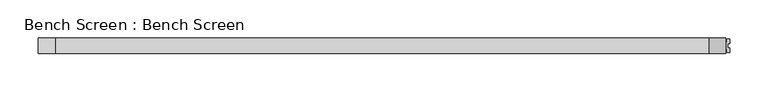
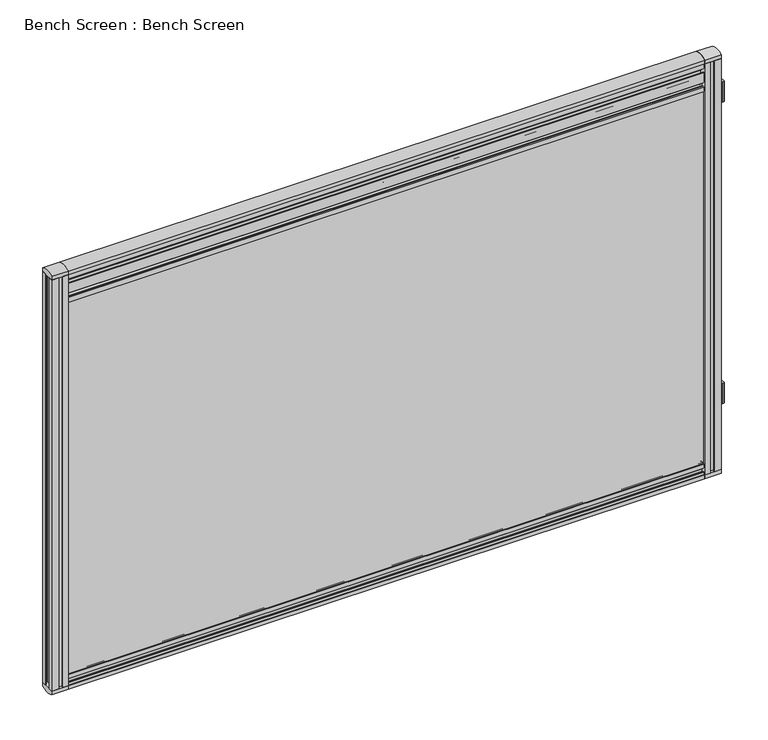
"""IFC4 building model written with IfcOpenShell, lengths in millimetres: furniture geometry, Bench Screen : Bench Screen."""

from ifc_helpers import new_model, si_unit, point, frame, frame_2d, origin, place, context, project, spatial, polyline, circle_curve, trimmed, segment, composite_curve, outline, extrude, source, transform, mapped, element, save


def bench_screen_bench_screen_04dcad76(model_context):
    return source(origin(), model_context, "Body", "SweptSolid", [
        extrude(outline(polyline([(435.0000662, 10.2500284), (435.0000662, 9.0499983), (432.0000313, 9.0499983), (432.0000313, 5.750013), (443.60005, 5.750013), (443.60005, 9.0499983), (440.5000212, 9.0499983), (440.5000212, 10.2500284), (450.0, 10.2500284), (450.0, 4.8000011), (448.8000233, 4.8000011), (448.8000233, 9.0499983), (444.8000494, 9.0499983), (444.8000494, -9.0499966), (448.8000233, -9.0499966), (448.8000233, -4.7999994), (450.0, -4.7999994), (450.0, -10.2500284), (440.5000212, -10.2500284), (440.5000212, -9.0499966), (443.60005, -9.0499966), (443.60005, -5.7500118), (440.6008145, -5.7500118), (440.6008145, -4.8000051), (435.0000662, -4.8000051), (435.0000662, -5.7499397), (432.0000313, -5.7499397), (432.0000313, -9.0499966), (435.0000662, -9.0499966), (435.0000662, -10.2500284), (427.9999984, -10.2500284), (427.9999984, 10.2500284), (435.0000662, 10.2500284)])), frame((0.0, 0.0, 7.999961), z_axis=(0.0, 0.0, 1.0), x_axis=(1.0, 0.0, 0.0)), (0.0, 0.0, 1.0), 584.000039),
        extrude(outline(polyline([(-435.0000662, 10.2500284), (-427.9999984, 10.2500284), (-427.9999984, -10.2500284), (-435.0000662, -10.2500284), (-435.0000662, -9.0499966), (-432.0000313, -9.0499966), (-432.0000313, -5.7499397), (-435.0000662, -5.7499397), (-435.0000662, -4.8000051), (-440.6008145, -4.8000051), (-440.6008145, -5.7500118), (-443.60005, -5.7500118), (-443.60005, -9.0499966), (-440.5000212, -9.0499966), (-440.5000212, -10.2500284), (-450.0, -10.2500284), (-450.0, -4.7999994), (-448.8000233, -4.7999994), (-448.8000233, -9.0499966), (-444.8000494, -9.0499966), (-444.8000494, 9.0499983), (-448.8000233, 9.0499983), (-448.8000233, 4.8000011), (-450.0, 4.8000011), (-450.0, 10.2500284), (-440.5000212, 10.2500284), (-440.5000212, 9.0499983), (-443.60005, 9.0499983), (-443.60005, 5.750013), (-432.0000313, 5.750013), (-432.0000313, 9.0499983), (-435.0000662, 9.0499983), (-435.0000662, 10.2500284)])), frame((0.0, 0.0, 7.999961), z_axis=(0.0, 0.0, 1.0), x_axis=(1.0, 0.0, 0.0)), (0.0, 0.0, 1.0), 584.000039),
        extrude(outline(composite_curve([segment(polyline([(10.2500284, 597.3285788), (10.2500284, 592.0), (-10.2500284, 592.0), (-10.2500284, 597.3285788)]), True, "CONTINUOUS"), segment(trimmed(circle_curve(frame_2d((0.0, 578.9996107)), 21.0003371), [point((-10.2500284, 597.3285788))], [point((10.2500284, 597.3285788))], False, "CARTESIAN"), True, "CONTINUOUS")], self_intersect=False)), frame((427.9999984, 0.0, 0.0), z_axis=(1.0, 0.0, 0.0), x_axis=(0.0, 1.0, 0.0)), (0.0, 0.0, 1.0), 22.0000016),
        extrude(outline(composite_curve([segment(polyline([(10.2500284, 7.999961), (10.2500284, 2.6713486)]), True, "CONTINUOUS"), segment(trimmed(circle_curve(frame_2d((0.0, 21.0004765)), 21.0004765), [point((10.2500284, 2.6713486))], [point((-10.2500284, 2.6713486))], False, "CARTESIAN"), True, "CONTINUOUS"), segment(polyline([(-10.2500284, 2.6713486), (-10.2500284, 7.999961), (10.2500284, 7.999961)]), True, "CONTINUOUS")], self_intersect=False)), frame((427.9999984, 0.0, 0.0), z_axis=(1.0, 0.0, 0.0), x_axis=(0.0, 1.0, 0.0)), (0.0, 0.0, 1.0), 22.0000016),
        extrude(outline(composite_curve([segment(polyline([(455.199996, 3.0000008), (452.7003239, 3.0000008)]), True, "CONTINUOUS"), segment(trimmed(circle_curve(frame_2d((452.7003239, 2.4997107)), 0.5002901), [point((452.7003239, 3.0000008))], [point((452.2000338, 2.4997107))], True, "CARTESIAN"), True, "CONTINUOUS"), segment(polyline([(452.2000338, 2.4997107), (452.2000338, -2.4999991)]), True, "CONTINUOUS"), segment(trimmed(circle_curve(frame_2d((452.7000338, -2.4999991)), 0.5), [point((452.2000338, -2.4999991))], [point((452.7000338, -2.9999991))], True, "CARTESIAN"), True, "CONTINUOUS"), segment(polyline([(452.7000338, -2.9999991), (455.199996, -2.9999991), (455.199996, -7.9795593)]), True, "CONTINUOUS"), segment(trimmed(circle_curve(frame_2d((454.2447485, -7.9795593)), 0.9552475), [point((455.199996, -7.9795593))], [point((454.2447485, -8.9348068))], False, "CARTESIAN"), True, "CONTINUOUS"), segment(polyline([(454.2447485, -8.9348068), (452.438788, -8.9348068)]), True, "CONTINUOUS"), segment(trimmed(circle_curve(frame_2d((452.438788, -7.9460257)), 0.9887811), [point((452.438788, -8.9348068))], [point((451.4500069, -7.9460257))], False, "CARTESIAN"), True, "CONTINUOUS"), segment(polyline([(451.4500069, -7.9460257), (451.4500069, -4.4499992), (448.5500386, -4.4499992), (448.5500386, -7.9854548)]), True, "CONTINUOUS"), segment(trimmed(circle_curve(frame_2d((447.585494, -7.9854548)), 0.9645446), [point((448.5500386, -7.9854548))], [point((447.585494, -8.9499993))], False, "CARTESIAN"), True, "CONTINUOUS"), segment(polyline([(447.585494, -8.9499993), (445.777195, -8.9499993)]), True, "CONTINUOUS"), segment(trimmed(circle_curve(frame_2d((445.777195, -7.9728129)), 0.9771864), [point((445.777195, -8.9499993))], [point((444.8000085, -7.9728129))], False, "CARTESIAN"), True, "CONTINUOUS"), segment(polyline([(444.8000085, -7.9728129), (444.8000085, -2.9999991), (447.2986299, -2.9999991)]), True, "CONTINUOUS"), segment(trimmed(circle_curve(frame_2d((447.2986299, -2.4986174)), 0.5013817), [point((447.2986299, -2.9999991))], [point((447.8000117, -2.4986174))], True, "CARTESIAN"), True, "CONTINUOUS"), segment(polyline([(447.8000117, -2.4986174), (447.8000117, 2.5000008)]), True, "CONTINUOUS"), segment(trimmed(circle_curve(frame_2d((447.3000117, 2.5000008)), 0.5), [point((447.8000117, 2.5000008))], [point((447.3000117, 3.0000008))], True, "CARTESIAN"), True, "CONTINUOUS"), segment(polyline([(447.3000117, 3.0000008), (444.8000085, 3.0000008), (444.8000085, 7.9332692)]), True, "CONTINUOUS"), segment(trimmed(circle_curve(frame_2d((445.8167404, 7.9332692)), 1.0167318), [point((444.8000085, 7.9332692))], [point((445.8167404, 8.950001))], False, "CARTESIAN"), True, "CONTINUOUS"), segment(polyline([(445.8167404, 8.950001), (447.5496593, 8.950001)]), True, "CONTINUOUS"), segment(trimmed(circle_curve(frame_2d((447.5496593, 7.9496217)), 1.0003793), [point((447.5496593, 8.950001))], [point((448.5500386, 7.9496217))], False, "CARTESIAN"), True, "CONTINUOUS"), segment(polyline([(448.5500386, 7.9496217), (448.5500386, 4.4500009), (451.4500069, 4.4500009), (451.4500069, 7.9371233)]), True, "CONTINUOUS"), segment(trimmed(circle_curve(frame_2d((452.4628846, 7.9371233)), 1.0128777), [point((451.4500069, 7.9371233))], [point((452.4628846, 8.950001))], False, "CARTESIAN"), True, "CONTINUOUS"), segment(polyline([(452.4628846, 8.950001), (454.2104943, 8.950001)]), True, "CONTINUOUS"), segment(trimmed(circle_curve(frame_2d((454.2104943, 7.9604993)), 0.9895018), [point((454.2104943, 8.950001))], [point((455.199996, 7.9604993))], False, "CARTESIAN"), True, "CONTINUOUS"), segment(polyline([(455.199996, 7.9604993), (455.199996, 3.0000008)]), True, "CONTINUOUS")], self_intersect=False)), frame((0.0, 0.0, 528.4785866), z_axis=(0.0, 0.0, 1.0), x_axis=(1.0, 0.0, 0.0)), (0.0, 0.0, 1.0), 28.7499893),
        extrude(outline(composite_curve([segment(polyline([(455.199996, 3.0000008), (452.7003239, 3.0000008)]), True, "CONTINUOUS"), segment(trimmed(circle_curve(frame_2d((452.7003239, 2.4997107)), 0.5002901), [point((452.7003239, 3.0000008))], [point((452.2000338, 2.4997107))], True, "CARTESIAN"), True, "CONTINUOUS"), segment(polyline([(452.2000338, 2.4997107), (452.2000338, -2.4999991)]), True, "CONTINUOUS"), segment(trimmed(circle_curve(frame_2d((452.7000338, -2.4999991)), 0.5), [point((452.2000338, -2.4999991))], [point((452.7000338, -2.9999991))], True, "CARTESIAN"), True, "CONTINUOUS"), segment(polyline([(452.7000338, -2.9999991), (455.199996, -2.9999991), (455.199996, -7.9795593)]), True, "CONTINUOUS"), segment(trimmed(circle_curve(frame_2d((454.2447485, -7.9795593)), 0.9552475), [point((455.199996, -7.9795593))], [point((454.2447485, -8.9348068))], False, "CARTESIAN"), True, "CONTINUOUS"), segment(polyline([(454.2447485, -8.9348068), (452.438788, -8.9348068)]), True, "CONTINUOUS"), segment(trimmed(circle_curve(frame_2d((452.438788, -7.9460257)), 0.9887811), [point((452.438788, -8.9348068))], [point((451.4500069, -7.9460257))], False, "CARTESIAN"), True, "CONTINUOUS"), segment(polyline([(451.4500069, -7.9460257), (451.4500069, -4.4499992), (448.5500386, -4.4499992), (448.5500386, -7.9854548)]), True, "CONTINUOUS"), segment(trimmed(circle_curve(frame_2d((447.585494, -7.9854548)), 0.9645446), [point((448.5500386, -7.9854548))], [point((447.585494, -8.9499993))], False, "CARTESIAN"), True, "CONTINUOUS"), segment(polyline([(447.585494, -8.9499993), (445.777195, -8.9499993)]), True, "CONTINUOUS"), segment(trimmed(circle_curve(frame_2d((445.777195, -7.9728129)), 0.9771864), [point((445.777195, -8.9499993))], [point((444.8000085, -7.9728129))], False, "CARTESIAN"), True, "CONTINUOUS"), segment(polyline([(444.8000085, -7.9728129), (444.8000085, -2.9999991), (447.2986299, -2.9999991)]), True, "CONTINUOUS"), segment(trimmed(circle_curve(frame_2d((447.2986299, -2.4986174)), 0.5013817), [point((447.2986299, -2.9999991))], [point((447.8000117, -2.4986174))], True, "CARTESIAN"), True, "CONTINUOUS"), segment(polyline([(447.8000117, -2.4986174), (447.8000117, 2.5000008)]), True, "CONTINUOUS"), segment(trimmed(circle_curve(frame_2d((447.3000117, 2.5000008)), 0.5), [point((447.8000117, 2.5000008))], [point((447.3000117, 3.0000008))], True, "CARTESIAN"), True, "CONTINUOUS"), segment(polyline([(447.3000117, 3.0000008), (444.8000085, 3.0000008), (444.8000085, 7.9332692)]), True, "CONTINUOUS"), segment(trimmed(circle_curve(frame_2d((445.8167404, 7.9332692)), 1.0167318), [point((444.8000085, 7.9332692))], [point((445.8167404, 8.950001))], False, "CARTESIAN"), True, "CONTINUOUS"), segment(polyline([(445.8167404, 8.950001), (447.5496593, 8.950001)]), True, "CONTINUOUS"), segment(trimmed(circle_curve(frame_2d((447.5496593, 7.9496217)), 1.0003793), [point((447.5496593, 8.950001))], [point((448.5500386, 7.9496217))], False, "CARTESIAN"), True, "CONTINUOUS"), segment(polyline([(448.5500386, 7.9496217), (448.5500386, 4.4500009), (451.4500069, 4.4500009), (451.4500069, 7.9371233)]), True, "CONTINUOUS"), segment(trimmed(circle_curve(frame_2d((452.4628846, 7.9371233)), 1.0128777), [point((451.4500069, 7.9371233))], [point((452.4628846, 8.950001))], False, "CARTESIAN"), True, "CONTINUOUS"), segment(polyline([(452.4628846, 8.950001), (454.2104943, 8.950001)]), True, "CONTINUOUS"), segment(trimmed(circle_curve(frame_2d((454.2104943, 7.9604993)), 0.9895018), [point((454.2104943, 8.950001))], [point((455.199996, 7.9604993))], False, "CARTESIAN"), True, "CONTINUOUS"), segment(polyline([(455.199996, 7.9604993), (455.199996, 3.0000008)]), True, "CONTINUOUS")], self_intersect=False)), frame((0.0, 0.0, 99.9662637), z_axis=(0.0, 0.0, 1.0), x_axis=(1.0, 0.0, 0.0)), (0.0, 0.0, 1.0), 28.7499893),
        extrude(outline(composite_curve([segment(polyline([(7.9499508, 20.2662593), (3.0841029, 20.2662593)]), True, "CONTINUOUS"), segment(trimmed(circle_curve(frame_2d((3.1151105, 19.783178)), 0.4840754), [point((3.0841029, 20.2662593))], [point((2.6717678, 19.5888169))], True, "CARTESIAN"), True, "CONTINUOUS"), segment(trimmed(circle_curve(frame_2d((0.0347695, 18.4327586)), 2.8792761), [point((2.6717678, 19.5888169))], [point((2.8959715, 18.1106496))], False, "CARTESIAN"), True, "CONTINUOUS"), segment(trimmed(circle_curve(frame_2d((1.8865524, 16.3103944)), 2.0639394), [point((2.8959715, 18.1106496))], [point((3.9499769, 16.35649))], False, "CARTESIAN"), True, "CONTINUOUS"), segment(polyline([(3.9499769, 16.35649), (3.9499769, 12.9600193)]), True, "CONTINUOUS"), segment(trimmed(circle_curve(frame_2d((0.4243734, 11.1303891)), 3.9720809), [point((3.9499769, 12.9600193))], [point((3.8180096, 9.0662526))], False, "CARTESIAN"), True, "CONTINUOUS"), segment(polyline([(3.8180096, 9.0662526), (7.9499508, 9.0662526), (7.9499508, 11.4662878), (9.1500229, 11.4662878), (9.1500229, 7.9662603), (2.8499714, 7.9662603), (2.8499714, 9.8319035)]), True, "CONTINUOUS"), segment(trimmed(circle_curve(frame_2d((0.4877241, 11.1518301)), 2.7059967), [point((2.8499714, 9.8319035))], [point((2.7499775, 12.6366291))], True, "CARTESIAN"), True, "CONTINUOUS"), segment(polyline([(2.7499775, 12.6366291), (2.7499775, 16.334702), (1.680472, 16.334702)]), True, "CONTINUOUS"), segment(trimmed(circle_curve(frame_2d((1.680472, 17.0021071)), 0.6674051), [point((1.680472, 16.334702))], [point((1.1043657, 17.3390508))], False, "CARTESIAN"), True, "CONTINUOUS"), segment(trimmed(circle_curve(frame_2d((0.0, 18.4955571)), 1.599103), [point((1.1043657, 17.3390508))], [point((1.599103, 18.4955571))], True, "CARTESIAN"), True, "CONTINUOUS"), segment(trimmed(circle_curve(frame_2d((0.0, 18.4955571)), 1.599103), [point((1.599103, 18.4955571))], [point((-1.599103, 18.4955571))], True, "CARTESIAN"), True, "CONTINUOUS"), segment(trimmed(circle_curve(frame_2d((0.0, 18.4955571)), 1.599103), [point((-1.599103, 18.4955571))], [point((-1.1043657, 17.3390508))], True, "CARTESIAN"), True, "CONTINUOUS"), segment(trimmed(circle_curve(frame_2d((-1.680472, 17.0021071)), 0.6674051), [point((-1.1043657, 17.3390508))], [point((-1.680472, 16.334702))], False, "CARTESIAN"), True, "CONTINUOUS"), segment(polyline([(-1.680472, 16.334702), (-2.7499775, 16.334702), (-2.7499775, 12.6366291)]), True, "CONTINUOUS"), segment(trimmed(circle_curve(frame_2d((-0.4877241, 11.1518301)), 2.7059967), [point((-2.7499775, 12.6366291))], [point((-2.8499714, 9.8319035))], True, "CARTESIAN"), True, "CONTINUOUS"), segment(polyline([(-2.8499714, 9.8319035), (-2.8499714, 7.9662603), (-9.1500229, 7.9662603), (-9.1500229, 11.4662878), (-7.9499508, 11.4662878), (-7.9499508, 9.0662526), (-3.8180096, 9.0662526)]), True, "CONTINUOUS"), segment(trimmed(circle_curve(frame_2d((-0.4243734, 11.1303891)), 3.9720809), [point((-3.8180096, 9.0662526))], [point((-3.9499769, 12.9600193))], False, "CARTESIAN"), True, "CONTINUOUS"), segment(polyline([(-3.9499769, 12.9600193), (-3.9499769, 16.35649)]), True, "CONTINUOUS"), segment(trimmed(circle_curve(frame_2d((-1.8865524, 16.3103944)), 2.0639394), [point((-3.9499769, 16.35649))], [point((-2.8959715, 18.1106496))], False, "CARTESIAN"), True, "CONTINUOUS"), segment(trimmed(circle_curve(frame_2d((-0.0347695, 18.4327586)), 2.8792761), [point((-2.8959715, 18.1106496))], [point((-2.6717678, 19.5888169))], False, "CARTESIAN"), True, "CONTINUOUS"), segment(trimmed(circle_curve(frame_2d((-3.1151105, 19.783178)), 0.4840754), [point((-2.6717678, 19.5888169))], [point((-3.0841029, 20.2662593))], True, "CARTESIAN"), True, "CONTINUOUS"), segment(polyline([(-3.0841029, 20.2662593), (-7.9499508, 20.2662593), (-7.9499508, 16.9662791), (-9.1500229, 16.9662791), (-9.1500229, 22.6662945), (-7.9499508, 22.6662945), (-7.9499508, 21.4662588), (-1.3999872, 21.4662588), (-1.0000116, 33.3961992)]), True, "CONTINUOUS"), segment(trimmed(circle_curve(frame_2d((0.0, 32.82182)), 1.153228), [point((-1.0000116, 33.3961992))], [point((1.0000116, 33.3961992))], False, "CARTESIAN"), True, "CONTINUOUS"), segment(polyline([(1.0000116, 33.3961992), (1.3999872, 21.4662588), (7.9499508, 21.4662588), (7.9499508, 22.6662945), (9.1500229, 22.6662945), (9.1500229, 16.9662791), (7.9499508, 16.9662791), (7.9499508, 20.2662593)]), True, "CONTINUOUS")], self_intersect=False)), frame((-427.9999984, 0.0, 0.0), z_axis=(1.0, 0.0, 0.0), x_axis=(0.0, 1.0, 0.0)), (0.0, 0.0, 1.0), 858.4999759),
        extrude(outline(polyline([(-443.550006, 8.7499746), (-440.9500057, 8.7499746), (-440.9500057, 7.1000027), (-434.6500059, 7.1000027), (-434.6500059, 8.7499746), (-432.0500056, 8.7499746), (-432.0500056, 5.7500851), (-443.550006, 5.7500851), (-443.550006, 8.7499746)])), frame((0.0, 0.0, 7.9762328), z_axis=(0.0, 0.0, 1.0), x_axis=(1.0, 0.0, 0.0)), (0.0, 0.0, 1.0), 583.990087),
        extrude(outline(polyline([(-443.550006, -8.7499746), (-443.550006, -5.7500851), (-432.0500056, -5.7500851), (-432.0500056, -8.7499746), (-434.6500059, -8.7499746), (-434.6500059, -7.1000027), (-440.9500057, -7.1000027), (-440.9500057, -8.7499746), (-443.550006, -8.7499746)])), frame((0.0, 0.0, 7.9762328), z_axis=(0.0, 0.0, 1.0), x_axis=(1.0, 0.0, 0.0)), (0.0, 0.0, 1.0), 583.990087),
        extrude(outline(polyline([(443.550006, 8.7499746), (443.550006, 5.7500851), (432.0500056, 5.7500851), (432.0500056, 8.7499746), (434.6500059, 8.7499746), (434.6500059, 7.1000027), (440.9500057, 7.1000027), (440.9500057, 8.7499746), (443.550006, 8.7499746)])), frame((0.0, 0.0, 7.9762328), z_axis=(0.0, 0.0, 1.0), x_axis=(1.0, 0.0, 0.0)), (0.0, 0.0, 1.0), 583.990087),
        extrude(outline(polyline([(443.550006, -8.7499746), (440.9500057, -8.7499746), (440.9500057, -7.1000027), (434.6500059, -7.1000027), (434.6500059, -8.7499746), (432.0500056, -8.7499746), (432.0500056, -5.7499397), (443.550006, -5.7499397), (443.550006, -8.7499746)])), frame((0.0, 0.0, 7.9762328), z_axis=(0.0, 0.0, 1.0), x_axis=(1.0, 0.0, 0.0)), (0.0, 0.0, 1.0), 583.990087),
        extrude(outline(composite_curve([segment(polyline([(10.2500284, 597.3285788), (10.2500284, 592.0), (-10.2500284, 592.0), (-10.2500284, 597.3285788)]), True, "CONTINUOUS"), segment(trimmed(circle_curve(frame_2d((0.0, 578.9996107)), 21.0003371), [point((-10.2500284, 597.3285788))], [point((10.2500284, 597.3285788))], False, "CARTESIAN"), True, "CONTINUOUS")], self_intersect=False)), frame((-450.0, 0.0, 0.0), z_axis=(1.0, 0.0, 0.0), x_axis=(0.0, 1.0, 0.0)), (0.0, 0.0, 1.0), 22.0000016),
        extrude(outline(composite_curve([segment(polyline([(10.2500284, 7.999961), (10.2500284, 2.6713486)]), True, "CONTINUOUS"), segment(trimmed(circle_curve(frame_2d((0.0, 21.0004765)), 21.0004765), [point((10.2500284, 2.6713486))], [point((-10.2500284, 2.6713486))], False, "CARTESIAN"), True, "CONTINUOUS"), segment(polyline([(-10.2500284, 2.6713486), (-10.2500284, 7.999961), (10.2500284, 7.999961)]), True, "CONTINUOUS")], self_intersect=False)), frame((-450.0, 0.0, 0.0), z_axis=(1.0, 0.0, 0.0), x_axis=(0.0, 1.0, 0.0)), (0.0, 0.0, 1.0), 22.0000016),
        extrude(outline(polyline([(7.5000004, 21.9662646), (1.5000006, 21.9662646), (1.5000006, 36.9662574), (-1.4999994, 36.9662574), (-1.4999994, 21.9662646), (-7.4999993, 21.9662646), (-7.4999993, 551.5000011), (-2.9999991, 551.5000011), (-2.9999991, 536.499972), (3.0000008, 536.499972), (3.0000008, 551.5000011), (7.5000004, 551.5000011), (7.5000004, 21.9662646)])), frame((-430.4999775, 0.0, 0.0), z_axis=(1.0, 0.0, 0.0), x_axis=(0.0, 1.0, 0.0)), (0.0, 0.0, 1.0), 860.9999551),
        extrude(outline(composite_curve([segment(polyline([(-10.2500284, 592.0), (-10.2500284, 597.3285788)]), True, "CONTINUOUS"), segment(trimmed(circle_curve(frame_2d((0.0, 578.9996107)), 21.0003371), [point((-10.2500284, 597.3285788))], [point((10.2500284, 597.3285788))], False, "CARTESIAN"), True, "CONTINUOUS"), segment(polyline([(10.2500284, 597.3285788), (10.2500284, 592.0), (-10.2500284, 592.0)]), True, "CONTINUOUS")], self_intersect=False), holes=[composite_curve([segment(polyline([(-9.0499921, 596.6107149), (-9.0499921, 593.2), (9.0499921, 593.2), (9.0499921, 596.6107149)]), True, "CONTINUOUS"), segment(trimmed(circle_curve(frame_2d((0.0, 578.9996107)), 19.8003371), [point((9.0499921, 596.6107149))], [point((-9.0499921, 596.6107149))], True, "CARTESIAN"), True, "CONTINUOUS")], self_intersect=False)]), frame((-427.9999984, 0.0, 0.0), z_axis=(1.0, 0.0, 0.0), x_axis=(0.0, 1.0, 0.0)), (0.0, 0.0, 1.0), 855.9999968),
        extrude(outline(composite_curve([segment(polyline([(10.2500284, 7.999961), (10.2500284, 2.6713486)]), True, "CONTINUOUS"), segment(trimmed(circle_curve(frame_2d((0.0, 21.0004765)), 21.0004765), [point((10.2500284, 2.6713486))], [point((-10.2500284, 2.6713486))], False, "CARTESIAN"), True, "CONTINUOUS"), segment(polyline([(-10.2500284, 2.6713486), (-10.2500284, 7.999961), (10.2500284, 7.999961)]), True, "CONTINUOUS")], self_intersect=False), holes=[composite_curve([segment(polyline([(9.0500284, 6.799961), (-9.0500284, 6.799961), (-9.0500284, 3.3892342)]), True, "CONTINUOUS"), segment(trimmed(circle_curve(frame_2d((0.0, 21.0004765)), 19.8004765), [point((-9.0500284, 3.3892342))], [point((9.0500284, 3.3892342))], True, "CARTESIAN"), True, "CONTINUOUS"), segment(polyline([(9.0500284, 3.3892342), (9.0500284, 6.799961)]), True, "CONTINUOUS")], self_intersect=False)]), frame((-427.9999984, 0.0, 0.0), z_axis=(1.0, 0.0, 0.0), x_axis=(0.0, 1.0, 0.0)), (0.0, 0.0, 1.0), 855.9999968),
        extrude(outline(composite_curve([segment(polyline([(-1.5499781, 592.0), (-1.5499781, 589.6831356)]), True, "CONTINUOUS"), segment(trimmed(circle_curve(frame_2d((-0.6108868, 588.7999563)), 1.2891463), [point((-1.5499781, 589.6831356))], [point((-1.4276745, 587.8025818))], True, "CARTESIAN"), True, "CONTINUOUS"), segment(polyline([(-1.4276745, 587.8025818), (-1.2022522, 585.6525677)]), True, "CONTINUOUS"), segment(trimmed(circle_curve(frame_2d((-1.798969, 585.5900038)), 0.5999876), [point((-1.2022522, 585.6525677))], [point((-2.3956846, 585.5274292))], False, "CARTESIAN"), True, "CONTINUOUS"), segment(polyline([(-2.3956846, 585.5274292), (-2.5790577, 587.2760878)]), True, "CONTINUOUS"), segment(trimmed(circle_curve(frame_2d((-0.610476, 588.8000218)), 2.4895158), [point((-2.5790577, 587.2760878))], [point((-2.7500502, 590.0727792))], False, "CARTESIAN"), True, "CONTINUOUS"), segment(polyline([(-2.7500502, 590.0727792), (-2.7500502, 592.0), (-1.5499781, 592.0)]), True, "CONTINUOUS")], self_intersect=False)), frame((-430.4999775, 0.0, 0.0), z_axis=(1.0, 0.0, 0.0), x_axis=(0.0, 1.0, 0.0)), (0.0, 0.0, 1.0), 858.4999759),
        extrude(outline(composite_curve([segment(polyline([(1.2032268, 585.6625534), (1.4276745, 587.8025818)]), True, "CONTINUOUS"), segment(trimmed(circle_curve(frame_2d((0.6106554, 588.7999714)), 1.2893045), [point((1.4276745, 587.8025818))], [point((1.5499781, 589.6831356))], True, "CARTESIAN"), True, "CONTINUOUS"), segment(polyline([(1.5499781, 589.6831356), (1.5499781, 592.0), (2.7500502, 592.0), (2.7500502, 590.0727792)]), True, "CONTINUOUS"), segment(trimmed(circle_curve(frame_2d((0.6106269, 588.8000638)), 2.4893647), [point((2.7500502, 590.0727792))], [point((2.578985, 587.2760878))], False, "CARTESIAN"), True, "CONTINUOUS"), segment(polyline([(2.578985, 587.2760878), (2.396657, 585.537395)]), True, "CONTINUOUS"), segment(trimmed(circle_curve(frame_2d((1.7999414, 585.5999696)), 0.5999875), [point((2.396657, 585.537395))], [point((1.2032268, 585.6625534))], False, "CARTESIAN"), True, "CONTINUOUS")], self_intersect=False)), frame((-430.4999775, 0.0, 0.0), z_axis=(1.0, 0.0, 0.0), x_axis=(0.0, 1.0, 0.0)), (0.0, 0.0, 1.0), 858.4999759),
        extrude(outline(composite_curve([segment(polyline([(-1.5499781, 7.9762328), (-2.7500502, 7.9762328), (-2.7500502, 9.9034536)]), True, "CONTINUOUS"), segment(trimmed(circle_curve(frame_2d((-0.610476, 11.1762109)), 2.4895158), [point((-2.7500502, 9.9034536))], [point((-2.5790577, 12.700145))], False, "CARTESIAN"), True, "CONTINUOUS"), segment(polyline([(-2.5790577, 12.700145), (-2.3956846, 14.4488036)]), True, "CONTINUOUS"), segment(trimmed(circle_curve(frame_2d((-1.798969, 14.386229)), 0.5999876), [point((-2.3956846, 14.4488036))], [point((-1.2022522, 14.3236651))], False, "CARTESIAN"), True, "CONTINUOUS"), segment(polyline([(-1.2022522, 14.3236651), (-1.4276745, 12.173651)]), True, "CONTINUOUS"), segment(trimmed(circle_curve(frame_2d((-0.6108868, 11.1762765)), 1.2891463), [point((-1.4276745, 12.173651))], [point((-1.5499781, 10.2930972))], True, "CARTESIAN"), True, "CONTINUOUS"), segment(polyline([(-1.5499781, 10.2930972), (-1.5499781, 7.9762328)]), True, "CONTINUOUS")], self_intersect=False)), frame((-430.4999775, 0.0, 0.0), z_axis=(1.0, 0.0, 0.0), x_axis=(0.0, 1.0, 0.0)), (0.0, 0.0, 1.0), 858.4999759),
        extrude(outline(composite_curve([segment(trimmed(circle_curve(frame_2d((1.7999414, 14.3762632)), 0.5999875), [point((1.2032268, 14.3136794))], [point((2.396657, 14.4388378))], False, "CARTESIAN"), True, "CONTINUOUS"), segment(polyline([(2.396657, 14.4388378), (2.578985, 12.700145)]), True, "CONTINUOUS"), segment(trimmed(circle_curve(frame_2d((0.6106269, 11.176169)), 2.4893647), [point((2.578985, 12.700145))], [point((2.7500502, 9.9034536))], False, "CARTESIAN"), True, "CONTINUOUS"), segment(polyline([(2.7500502, 9.9034536), (2.7500502, 7.9762328), (1.5499781, 7.9762328), (1.5499781, 10.2930972)]), True, "CONTINUOUS"), segment(trimmed(circle_curve(frame_2d((0.6106554, 11.1762614)), 1.2893045), [point((1.5499781, 10.2930972))], [point((1.4276745, 12.173651))], True, "CARTESIAN"), True, "CONTINUOUS"), segment(polyline([(1.4276745, 12.173651), (1.2032268, 14.3136794)]), True, "CONTINUOUS")], self_intersect=False)), frame((-430.4999775, 0.0, 0.0), z_axis=(1.0, 0.0, 0.0), x_axis=(0.0, 1.0, 0.0)), (0.0, 0.0, 1.0), 858.4999759),
        extrude(outline(composite_curve([segment(polyline([(9.000032, 584.9999912), (7.8000326, 584.9999912), (7.8000326, 590.8000006), (4.6000826, 590.8000006), (4.6000826, 586.164237), (3.323925, 583.9538342), (2.5415802, 583.9538342), (2.4204109, 582.2240127)]), True, "CONTINUOUS"), segment(trimmed(circle_curve(frame_2d((7.27e-05, 580.4999752)), 2.9715892), [point((2.4204109, 582.2240127))], [point((1.0000843, 577.7017044))], False, "CARTESIAN"), True, "CONTINUOUS"), segment(polyline([(1.0000843, 577.7017044), (1.0000843, 572.7500122), (7.8000326, 572.7500122), (7.8000326, 578.9999214), (9.000032, 578.9999214), (9.000032, 564.9999765), (7.8000326, 564.9999765), (7.8000326, 571.2499584), (1.0000843, 571.2499584), (1.0262605, 566.2887005)]), True, "CONTINUOUS"), segment(trimmed(circle_curve(frame_2d((7.27e-05, 563.4999228)), 2.9715892), [point((1.0262605, 566.2887005))], [point((2.4204109, 561.7758852))], False, "CARTESIAN"), True, "CONTINUOUS"), segment(polyline([(2.4204109, 561.7758852), (2.5415802, 560.0460638), (3.323925, 560.0460638), (4.6000826, 557.8356609), (4.6000826, 553.1998974), (7.8000326, 553.1998974), (7.8000326, 558.9999067), (9.000032, 558.9999067), (9.000032, 551.999898), (3.4000832, 551.999898), (3.4000832, 553.1299162)]), True, "CONTINUOUS"), segment(trimmed(circle_curve(frame_2d((3.4000832, 553.5799251)), 0.4500089), [point((3.4000832, 553.1299162))], [point((3.4000832, 554.0299339))], False, "CARTESIAN"), True, "CONTINUOUS"), segment(polyline([(3.4000832, 554.0299339), (3.4000832, 557.5141689), (2.5422867, 558.9999067), (1.7271475, 558.9999067), (1.151915, 562.5187767)]), True, "CONTINUOUS"), segment(trimmed(circle_curve(frame_2d((7.27e-05, 563.4999228)), 1.5130724), [point((1.151915, 562.5187767))], [point((-1.1517699, 562.5187771))], True, "CARTESIAN"), True, "CONTINUOUS"), segment(polyline([(-1.1517699, 562.5187771), (-1.7270021, 558.9999067), (-2.5421413, 558.9999067), (-3.3999378, 557.5141689), (-3.3999378, 554.0299339)]), True, "CONTINUOUS"), segment(trimmed(circle_curve(frame_2d((-3.3999378, 553.5799251)), 0.4500089), [point((-3.3999378, 554.0299339))], [point((-3.3999378, 553.1299162))], False, "CARTESIAN"), True, "CONTINUOUS"), segment(polyline([(-3.3999378, 553.1299162), (-3.3999378, 551.999898), (-8.9998867, 551.999898), (-8.9998867, 558.9999067), (-7.7998873, 558.9999067), (-7.7998873, 553.1998974), (-4.5999372, 553.1998974), (-4.5999372, 557.8356609), (-3.3237797, 560.0460638), (-2.5414348, 560.0460638), (-2.4202655, 561.7758852)]), True, "CONTINUOUS"), segment(trimmed(circle_curve(frame_2d((7.27e-05, 563.4999228)), 2.9715892), [point((-2.4202655, 561.7758852))], [point((-1.0261151, 566.2887005))], False, "CARTESIAN"), True, "CONTINUOUS"), segment(polyline([(-1.0261151, 566.2887005), (-0.999939, 571.2499584), (-7.7998873, 571.2499584), (-7.7998873, 564.9999765), (-8.9998867, 564.9999765), (-8.9998867, 578.9999214), (-7.7998873, 578.9999214), (-7.7998873, 572.7500122), (-0.999939, 572.7500122), (-0.999939, 577.7017044)]), True, "CONTINUOUS"), segment(trimmed(circle_curve(frame_2d((7.27e-05, 580.4999752)), 2.9715892), [point((-0.999939, 577.7017044))], [point((-2.4202655, 582.2240127))], False, "CARTESIAN"), True, "CONTINUOUS"), segment(polyline([(-2.4202655, 582.2240127), (-2.5414348, 583.9538342), (-3.3237797, 583.9538342), (-4.5999372, 586.164237), (-4.5999372, 590.8000006), (-7.7998873, 590.8000006), (-7.7998873, 584.9999912), (-8.9998867, 584.9999912), (-8.9998867, 592.0), (-3.3999378, 592.0), (-3.3999378, 590.8699818)]), True, "CONTINUOUS"), segment(trimmed(circle_curve(frame_2d((-3.3999378, 590.4199729)), 0.4500089), [point((-3.3999378, 590.8699818))], [point((-3.3999378, 589.969964))], False, "CARTESIAN"), True, "CONTINUOUS"), segment(polyline([(-3.3999378, 589.969964), (-3.3999378, 586.485729), (-2.5421413, 584.9999912), (-1.7270021, 584.9999912), (-1.0698311, 581.569879)]), True, "CONTINUOUS"), segment(trimmed(circle_curve(frame_2d((7.27e-05, 580.4999752)), 1.5130724), [point((-1.0698311, 581.569879))], [point((1.0699764, 581.569879))], True, "CARTESIAN"), True, "CONTINUOUS"), segment(polyline([(1.0699764, 581.569879), (1.7271475, 584.9999912), (2.5422867, 584.9999912), (3.4000832, 586.485729), (3.4000832, 589.969964)]), True, "CONTINUOUS"), segment(trimmed(circle_curve(frame_2d((3.4000832, 590.4199729)), 0.4500089), [point((3.4000832, 589.969964))], [point((3.4000832, 590.8699818))], False, "CARTESIAN"), True, "CONTINUOUS"), segment(polyline([(3.4000832, 590.8699818), (3.4000832, 592.0), (9.000032, 592.0), (9.000032, 584.9999912)]), True, "CONTINUOUS")], self_intersect=False)), frame((-430.4999866, 0.0, 0.0), z_axis=(1.0, 0.0, 0.0), x_axis=(0.0, 1.0, 0.0)), (0.0, 0.0, 1.0), 860.9999641),
    ])


if __name__ == "__main__":
    model = new_model("IFC4")
    model_context = context("Model", 3, world=origin())
    ifc_project = project(units=[si_unit("LENGTHUNIT", "METRE", prefix="MILLI")], contexts=[model_context])
    site = spatial("IfcSite", under=ifc_project)
    building = spatial("IfcBuilding", under=site)
    placement = place(None, origin())
    bench_screen_bench_screen_shape = bench_screen_bench_screen_04dcad76(model_context)
    element("IfcFurniture", 1, ObjectType="Bench Screen : Bench Screen", at=placement, inside=building, context=model_context, shape_type="MappedRepresentation", body=[
        mapped(bench_screen_bench_screen_shape, transform((0.0, 0.0, 0.0), x_axis=(1.0, 0.0, 0.0), y_axis=(0.0, 1.0, 0.0), z_axis=(0.0, 0.0, 1.0))),
    ])
    save(model, "model.ifc")
